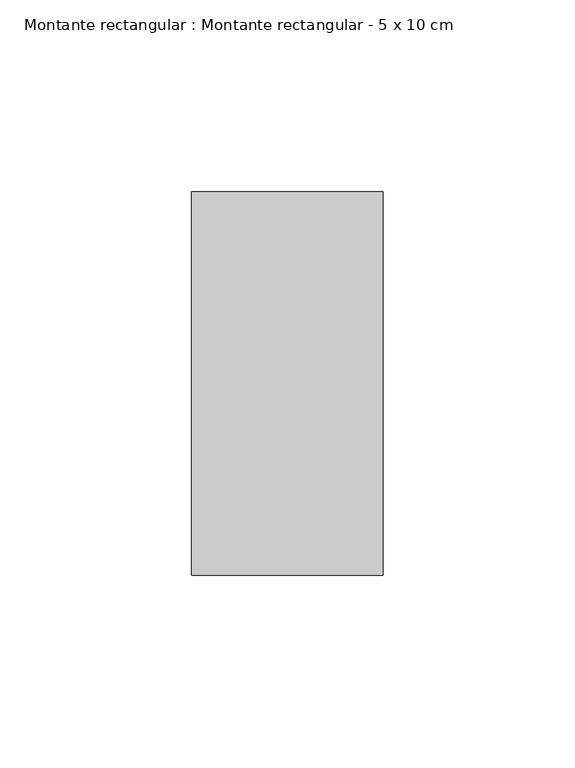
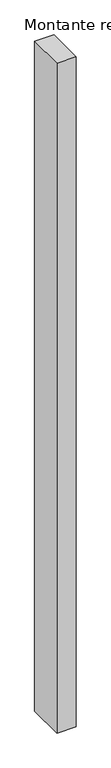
"""IFC4 building model written with IfcOpenShell, lengths in millimetres: member geometry, Montante rectangular : Montante rectangular - 5 x 10 cm."""

from ifc_helpers import new_model, si_unit, frame, origin, place, context, project, spatial, polyline, outline, extrude, source, transform, mapped, element, save


def montante_rectangular_montante_rectangular_5_x_10_cm_8a9e6ede(model_context):
    return source(origin(), model_context, "Body", "SweptSolid", [
        extrude(outline(polyline([(25.0, 50.0), (25.0, -50.0), (-25.0, -50.0), (-25.0, 50.0), (25.0, 50.0)])), frame((0.0, 0.0, -1840.0), z_axis=(0.0, 0.0, 1.0), x_axis=(1.0, 0.0, 0.0)), (0.0, 0.0, 1.0), 1840.0),
    ])


if __name__ == "__main__":
    model = new_model("IFC4")
    model_context = context("Model", 3, world=origin())
    ifc_project = project(units=[si_unit("LENGTHUNIT", "METRE", prefix="MILLI")], contexts=[model_context])
    site = spatial("IfcSite", under=ifc_project)
    building = spatial("IfcBuilding", under=site)
    placement = place(None, origin())
    montante_rectangular_montante_rectangular_5_x_10_cm_shape = montante_rectangular_montante_rectangular_5_x_10_cm_8a9e6ede(model_context)
    element("IfcMember", 1, ObjectType="Montante rectangular : Montante rectangular - 5 x 10 cm", at=placement, inside=building, context=model_context, shape_type="MappedRepresentation", body=[
        mapped(montante_rectangular_montante_rectangular_5_x_10_cm_shape, transform((0.0, 0.0, 0.0), x_axis=(1.0, 0.0, 0.0), y_axis=(0.0, 1.0, 0.0), z_axis=(0.0, 0.0, 1.0))),
    ])
    save(model, "model.ifc")
